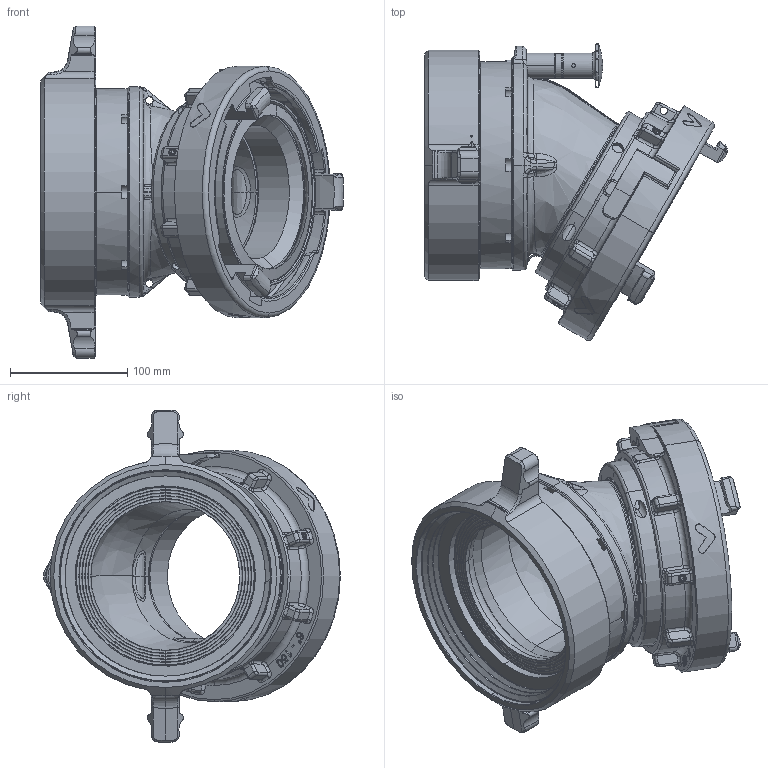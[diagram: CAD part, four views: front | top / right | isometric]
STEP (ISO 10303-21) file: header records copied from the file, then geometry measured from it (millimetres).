
FILE_DESCRIPTION (( 'STEP AP203' ), '1' );
FILE_NAME ('AJ1SX-NX.STEP', '2017-07-06T14:19:31', ( 'Windows User' ), ( '' ), 'SwSTEP 2.0', 'SolidWorks 2016', '' );
FILE_SCHEMA (( 'CONFIG_CONTROL_DESIGN' ));
Length unit declared in the file: inch
Products named in the file (1): AJ1SX-NX
Bounding box: 258.68 x 253.34 x 283.46 mm (x, y, z)
Surface area: 406685.5 mm2 (no closed solid volume)
Topology: 0 solids, 32 shells, 1096 faces, 3295 edges, 2158 vertices
Faces by surface type: cylinder 310, bspline 276, plane 202, torus 156, cone 138, sphere 14
Entity records: 62562 total; most frequent: CARTESIAN_POINT 36464, ORIENTED_EDGE 5710, DIRECTION 4733, EDGE_CURVE 3268, VERTEX_POINT 2153, AXIS2_PLACEMENT_3D 1911, EDGE_LOOP 1161, FACE_OUTER_BOUND 1096
